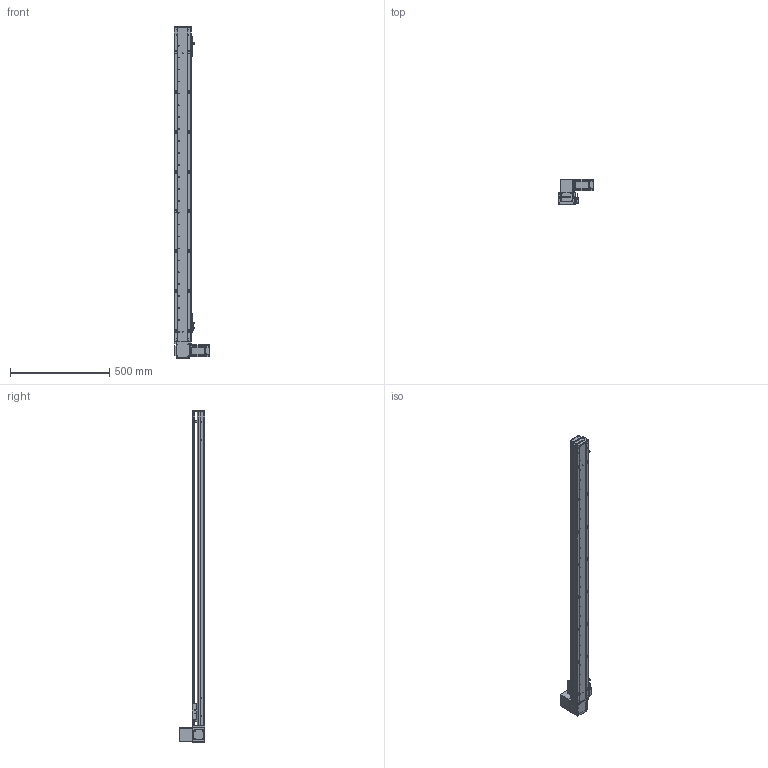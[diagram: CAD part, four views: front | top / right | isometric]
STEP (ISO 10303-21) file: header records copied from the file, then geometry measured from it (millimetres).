
FILE_DESCRIPTION (( 'STEP AP203' ), '1' );
FILE_NAME ('RY80-T-300-UR.SLDASM_1400.step', '2021-03-01T02:27:18', ( '盈信电脑' ), ( '东莞市道滘镇水果街19号' ), 'SwSTEP 2.0', 'SolidWorks 2012', '' );
FILE_SCHEMA (( 'CONFIG_CONTROL_DESIGN' ));
Length unit declared in the file: millimetre
Products named in the file (20): 覜茼ん672; RY80俋离覜茼え; RY80-T肮祭湍揤輸1; RY80-T-翋肮祭謫釱; RY80-T萇儂假蚾啣; RY80-T-300-UR.SLDASM_1400; RY80-T-M4蹟翐2; 1; RY80-T-上下折同步轮盖板; RY80-T肮祭謫奻殏俋欶; 滅袉蝶18-10; RY100-T粣創揤踡裔; RY80-T翋肮祭謫裔啣; RY80-T粣創揤踡輸; RY80-T肮祭湍揤輸2; 672嫖萇羲壽假蚾釱; RY80-T綴裔啣; RY80-T-300-UR倰第奻裔啣_1400; RY80-T肮祭謫臏賑輸; RY80-T-300-UR倰第菁釱_1400
Assembly tree (23 placements, depth 2):
  RY80-T-300-UR.SLDASM_1400
    RY80-T-300-UR倰第菁釱_1400
    RY80-T肮祭謫臏賑輸
    RY80-T-300-UR倰第奻裔啣_1400
    RY80-T綴裔啣
    672嫖萇羲壽假蚾釱  x2
    覜茼ん672  x3
    RY80俋离覜茼え
    RY80-T-翋肮祭謫釱
    RY80-T肮祭湍揤輸1
    RY80-T肮祭湍揤輸2
    RY80-T粣創揤踡輸
    滅袉蝶18-10  x2
    RY100-T粣創揤踡裔
    RY80-T翋肮祭謫裔啣
    RY80-T-上下折同步轮盖板
    1
    RY80-T肮祭謫奻殏俋欶
    RY80-T-M4蹟翐2
    RY80-T萇儂假蚾啣
Bounding box: 180 x 130.5 x 1670 mm (x, y, z)
Volume: 2710335.3 mm3; surface area: 1147330.7 mm2
Topology: 23 solids, 23 shells, 2536 faces, 7002 edges, 4550 vertices
Faces by surface type: plane 1345, cylinder 993, cone 142, bspline 56
Entity records: 81438 total; most frequent: CARTESIAN_POINT 19846, ORIENTED_EDGE 12648, DIRECTION 11904, EDGE_CURVE 6324, VERTEX_POINT 4154, AXIS2_PLACEMENT_3D 4028, LINE 3848, VECTOR 3848
